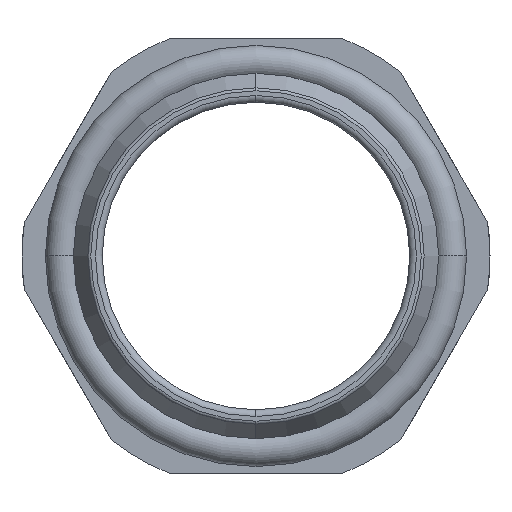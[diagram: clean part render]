
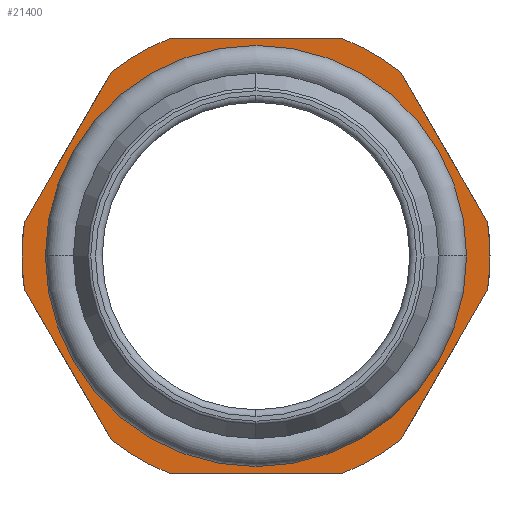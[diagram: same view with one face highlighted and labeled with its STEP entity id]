
A CAD part, left-side view. The second image highlights one B-rep face of the part: STEP entity #21400.
In plain terms, the highlighted planar face has unit normal (-1, 0, 0).
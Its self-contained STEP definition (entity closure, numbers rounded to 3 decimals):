
#19330=CARTESIAN_POINT('',(0.,-6.5,-2.598)
);
#19340=VERTEX_POINT('743583-1634609335-14cb19c6d37b-0 373810',#19330);
#19370=CARTESIAN_POINT('',(0.,-6.5,2.598))
;
#19380=DIRECTION('',(0.,0.,-1.));
#19390=VECTOR('',#19380,1.);
#19400=LINE('',#19370,#19390);
#19410=CARTESIAN_POINT('',(0.,-6.5,2.598))
;
#19420=VERTEX_POINT('743583-1634609335-14cb19c6d37b-0 373790',#19410);
#19430=EDGE_CURVE('743583-1634609335-14cb19c6d37b-0 374498',#19420,
#19340,#19400,.T.);
#19610=CARTESIAN_POINT('',(0.,0.,0.
));
#19620=DIRECTION('',(-1.,0.,0.));
#19630=DIRECTION('',(0.,-0.929,
0.371));
#19640=AXIS2_PLACEMENT_3D('',#19610,#19620,#19630);
#19650=CIRCLE('',#19640,7.);
#19660=CARTESIAN_POINT('',(0.,-5.5,
4.33));
#19670=VERTEX_POINT('743583-1634609335-14cb19c6d37b-0 373788',#19660);
#19680=EDGE_CURVE('743583-1634609335-14cb19c6d37b-0 374509',#19420,
#19670,#19650,.T.);
#19980=CARTESIAN_POINT('',(0.,-5.5,
4.33));
#19990=DIRECTION('',(0.,0.866,0.5));
#20000=VECTOR('',#19990,1.);
#20010=LINE('',#19980,#20000);
#20020=CARTESIAN_POINT('',(0.,-1.,
6.928));
#20030=VERTEX_POINT('743583-1634609335-14cb19c6d37b-0 373794',#20020);
#20040=EDGE_CURVE('743583-1634609335-14cb19c6d37b-0 374518',#19670,
#20030,#20010,.T.);
#20200=CARTESIAN_POINT('',(0.,0.,0.
));
#20210=DIRECTION('',(-1.,0.,0.));
#20220=DIRECTION('',(0.,-0.143,
0.99));
#20230=AXIS2_PLACEMENT_3D('',#20200,#20210,#20220);
#20240=CIRCLE('',#20230,7.);
#20250=CARTESIAN_POINT('',(0.,1.,6.928));
#20260=VERTEX_POINT('743583-1634609335-14cb19c6d37b-0 373796',#20250);
#20270=EDGE_CURVE('743583-1634609335-14cb19c6d37b-0 374532',#20030,
#20260,#20240,.T.);
#20480=CARTESIAN_POINT('',(0.,-6.65,0.));
#20490=DIRECTION('',(-1.,0.,0.));
#20500=DIRECTION('',(0.,1.,0.));
#20510=AXIS2_PLACEMENT_3D('',#20480,#20490,#20500);
#20520=PLANE('',#20510);
#20530=CARTESIAN_POINT('',(0.,0.,0.
));
#20540=DIRECTION('',(-1.,0.,0.));
#20550=DIRECTION('',(0.,0.929,
-0.371));
#20560=AXIS2_PLACEMENT_3D('',#20530,#20540,#20550);
#20570=CIRCLE('',#20560,7.);
#20580=CARTESIAN_POINT('',(0.,6.5,-2.598));
#20590=VERTEX_POINT('743583-1634609335-14cb19c6d37b-0 373804',#20580);
#20600=CARTESIAN_POINT('',(0.,5.5,
-4.33));
#20610=VERTEX_POINT('743583-1634609335-14cb19c6d37b-0 373800',#20600);
#20620=EDGE_CURVE('743583-1634609335-14cb19c6d37b-0 374554',#20590,
#20610,#20570,.T.);
#20630=ORIENTED_EDGE('',*,*,#20620,.T.);
#20640=CARTESIAN_POINT('',(0.,6.5,-2.598));
#20650=DIRECTION('',(0.,0.,1.));
#20660=VECTOR('',#20650,1.);
#20670=LINE('',#20640,#20660);
#20680=CARTESIAN_POINT('',(0.,6.5,2.598));
#20690=VERTEX_POINT('743583-1634609335-14cb19c6d37b-0 373806',#20680);
#20700=EDGE_CURVE('743583-1634609335-14cb19c6d37b-0 374552',#20590,
#20690,#20670,.T.);
#20710=ORIENTED_EDGE('',*,*,#20700,.F.);
#20720=CARTESIAN_POINT('',(0.,0.,0.
));
#20730=DIRECTION('',(-1.,0.,0.));
#20740=DIRECTION('',(0.,0.786,
0.619));
#20750=AXIS2_PLACEMENT_3D('',#20720,#20730,#20740);
#20760=CIRCLE('',#20750,7.);
#20770=CARTESIAN_POINT('',(0.,5.5,
4.33));
#20780=VERTEX_POINT('743583-1634609335-14cb19c6d37b-0 373808',#20770);
#20790=EDGE_CURVE('743583-1634609335-14cb19c6d37b-0 374550',#20780,
#20690,#20760,.T.);
#20800=ORIENTED_EDGE('',*,*,#20790,.T.);
#20810=CARTESIAN_POINT('',(0.,1.,
6.928));
#20820=DIRECTION('',(0.,0.866,-0.5));
#20830=VECTOR('',#20820,1.);
#20840=LINE('',#20810,#20830);
#20850=EDGE_CURVE('743583-1634609335-14cb19c6d37b-0 374548',#20260,
#20780,#20840,.T.);
#20860=ORIENTED_EDGE('',*,*,#20850,.T.);
#20870=ORIENTED_EDGE('',*,*,#20270,.T.);
#20880=ORIENTED_EDGE('',*,*,#20040,.T.);
#20890=ORIENTED_EDGE('',*,*,#19680,.T.);
#20900=ORIENTED_EDGE('',*,*,#19430,.F.);
#20910=CARTESIAN_POINT('',(0.,0.,0.
));
#20920=DIRECTION('',(-1.,0.,0.));
#20930=DIRECTION('',(0.,-0.786,
-0.619));
#20940=AXIS2_PLACEMENT_3D('',#20910,#20920,#20930);
#20950=CIRCLE('',#20940,7.);
#20960=CARTESIAN_POINT('',(0.,-5.5,-4.33))
;
#20970=VERTEX_POINT('743583-1634609335-14cb19c6d37b-0 373814',#20960);
#20980=EDGE_CURVE('743583-1634609335-14cb19c6d37b-0 374542',#20970,
#19340,#20950,.T.);
#20990=ORIENTED_EDGE('',*,*,#20980,.T.);
#21000=CARTESIAN_POINT('',(0.,-1.,
-6.928));
#21010=DIRECTION('',(0.,-0.866,
0.5));
#21020=VECTOR('',#21010,1.);
#21030=LINE('',#21000,#21020);
#21040=CARTESIAN_POINT('',(0.,-1.,
-6.928));
#21050=VERTEX_POINT('743583-1634609335-14cb19c6d37b-0 373812',#21040);
#21060=EDGE_CURVE('743583-1634609335-14cb19c6d37b-0 374540',#21050,
#20970,#21030,.T.);
#21070=ORIENTED_EDGE('',*,*,#21060,.T.);
#21080=CARTESIAN_POINT('',(0.,0.,0.
));
#21090=DIRECTION('',(-1.,0.,0.));
#21100=DIRECTION('',(0.,0.143,
-0.99));
#21110=AXIS2_PLACEMENT_3D('',#21080,#21090,#21100);
#21120=CIRCLE('',#21110,7.);
#21130=CARTESIAN_POINT('',(0.,1.,
-6.928));
#21140=VERTEX_POINT('743583-1634609335-14cb19c6d37b-0 373802',#21130);
#21150=EDGE_CURVE('743583-1634609335-14cb19c6d37b-0 374538',#21140,
#21050,#21120,.T.);
#21160=ORIENTED_EDGE('',*,*,#21150,.T.);
#21170=CARTESIAN_POINT('',(0.,5.5,
-4.33));
#21180=DIRECTION('',(0.,-0.866,-0.5));
#21190=VECTOR('',#21180,1.);
#21200=LINE('',#21170,#21190);
#21210=EDGE_CURVE('743583-1634609335-14cb19c6d37b-0 374535',#20610,
#21140,#21200,.T.);
#21220=ORIENTED_EDGE('',*,*,#21210,.T.);
#21230=EDGE_LOOP('',(#21220,#21160,#21070,#20990,#20900,#20890,#20880,
#20870,#20860,#20800,#20710,#20630));
#21240=FACE_OUTER_BOUND('',#21230,.T.);
#21250=CARTESIAN_POINT('',(0.,0.,0.
));
#21260=DIRECTION('',(1.,0.,0.));
#21270=DIRECTION('',(0.,1.,0.));
#21280=AXIS2_PLACEMENT_3D('',#21250,#21260,#21270);
#21290=CIRCLE('',#21280,6.3);
#21300=CARTESIAN_POINT('',(0.,-6.3,0.));
#21310=VERTEX_POINT('743583-1634609335-14cb19c6d37b-0 373816',#21300);
#21320=CARTESIAN_POINT('',(0.,6.3,
0.));
#21330=VERTEX_POINT('',#21320);
#21340=EDGE_CURVE('743583-1634609335-14cb19c6d37b-0 374556',#21310,
#21330,#21290,.T.);
#21350=ORIENTED_EDGE('',*,*,#21340,.T.);
#21360=EDGE_CURVE('743583-1634609335-14cb19c6d37b-0 374556',#21330,
#21310,#21290,.T.);
#21370=ORIENTED_EDGE('',*,*,#21360,.T.);
#21380=EDGE_LOOP('',(#21370,#21350));
#21390=FACE_BOUND('',#21380,.T.);
#21400=ADVANCED_FACE('743583-1634609335-14cb19c6d37b-0 374534',(#21240,
#21390),#20520,.T.);
